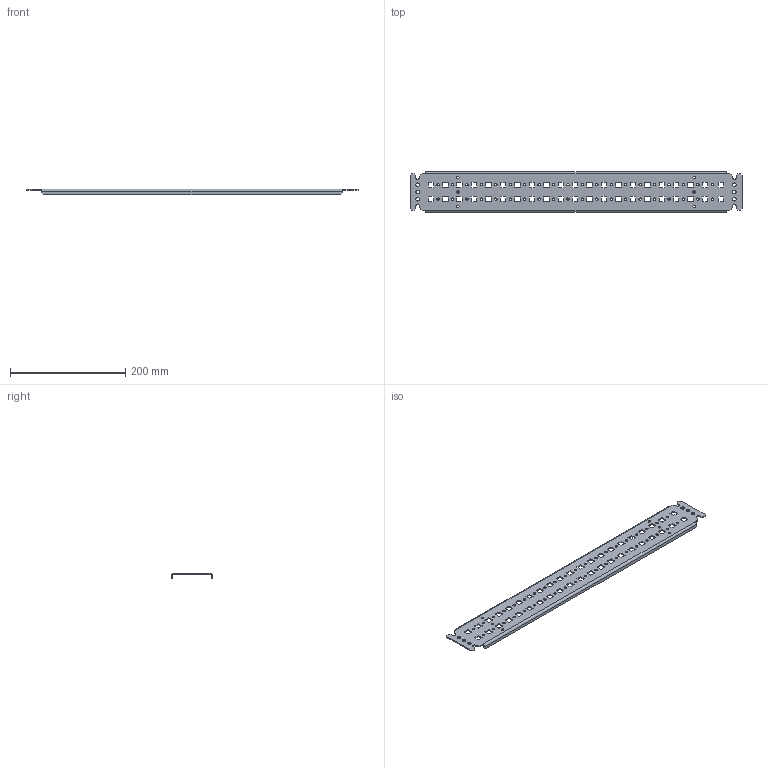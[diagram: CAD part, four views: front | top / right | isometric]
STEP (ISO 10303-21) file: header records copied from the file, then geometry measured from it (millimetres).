
FILE_DESCRIPTION (( 'STEP AP214' ), '1' );
FILE_NAME ('MG 60.06 R Ðåéêà ìîíòàæíàÿ.STEP', '2022-09-07T08:59:44', ( '' ), ( '' ), 'SwSTEP 2.0', 'SolidWorks 2018', '' );
FILE_SCHEMA (( 'AUTOMOTIVE_DESIGN' ));
Length unit declared in the file: millimetre
Products named in the file (1): MG 60.06 R Ðåéêà ìîíòàæíàÿ
Bounding box: 575 x 70.91 x 9.3 mm (x, y, z)
Volume: 83522.8 mm3; surface area: 90764.2 mm2
Topology: 1 solids, 1 shells, 498 faces, 1472 edges, 976 vertices
Faces by surface type: cylinder 280, plane 218
Entity records: 17218 total; most frequent: DIRECTION 3030, CARTESIAN_POINT 2947, ORIENTED_EDGE 2944, EDGE_CURVE 1472, AXIS2_PLACEMENT_3D 1059, VERTEX_POINT 976, VECTOR 912, LINE 912
